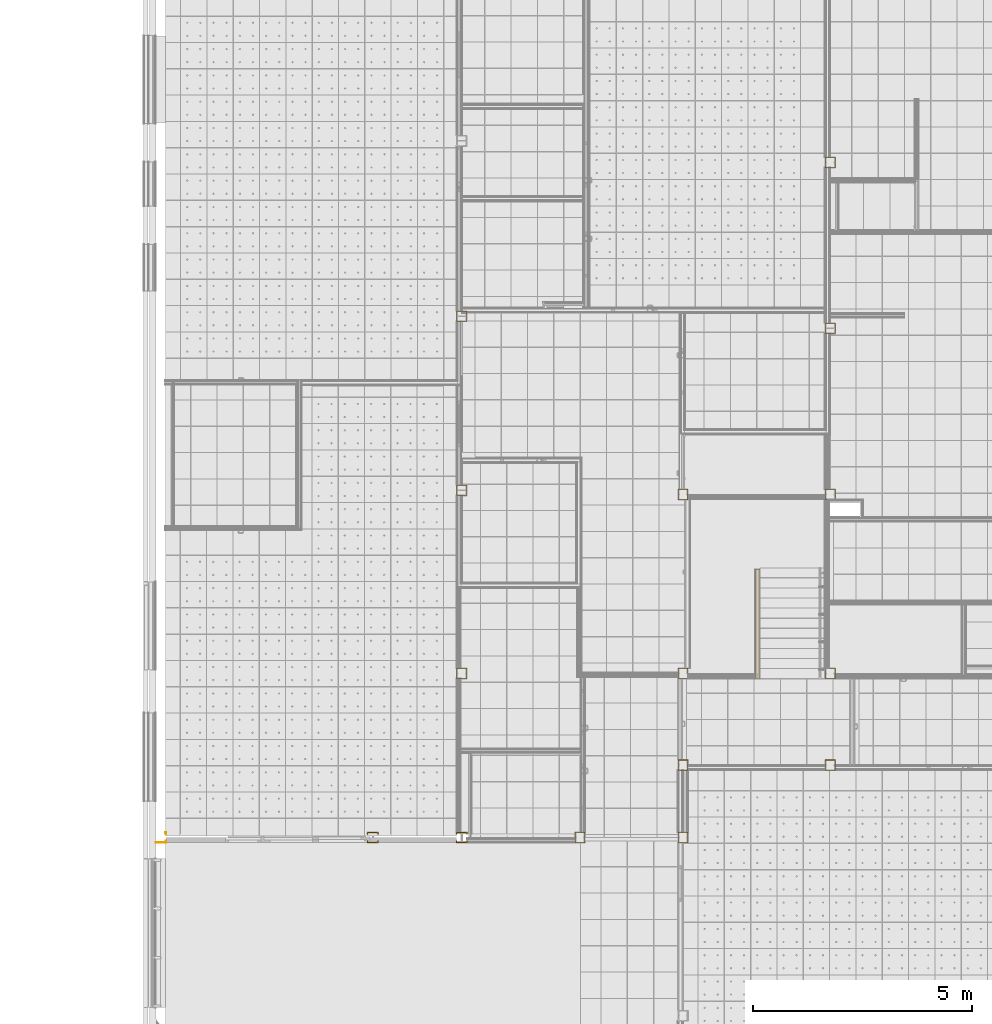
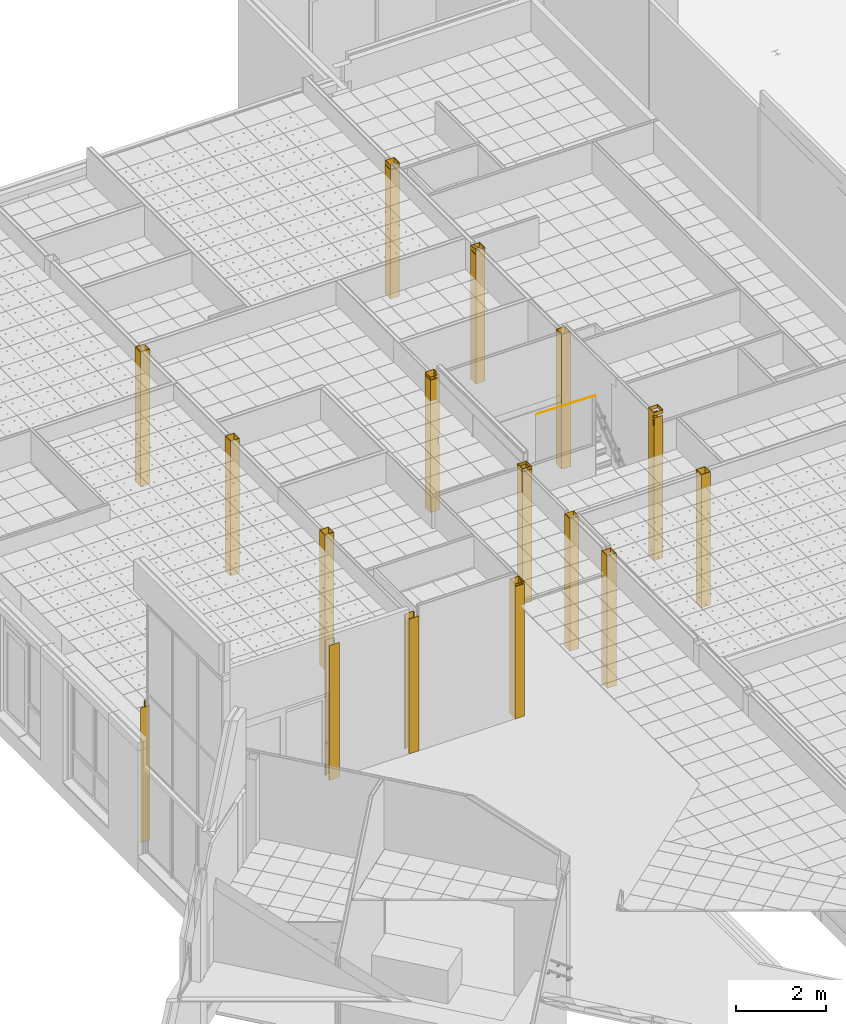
# One storey, part 118 of 338: 17 coverings.
"""IFC2X3 building model written with IfcOpenShell, lengths in millimetres."""

import ifcopenshell
import ifcopenshell.guid

model = None  # the IFC model being written
_history = None  # IfcOwnerHistory: only IFC2X3 demands one
_inside = {}  # id of a spatial element -> (the spatial element, [elements in it])
_under = {}  # id of a project, library or spatial element -> (it, [spatial elements below it])
_declared = {}  # id of a project -> (the project, [libraries it declares])
_typed = {}  # id of a type object -> (the type object, [elements of that type])
_made_of = {}  # id of a material, layer set ... -> (it, [elements and type objects made of it])


def new_model(schema):
    """Start an empty IFC model of exactly this schema.

    Asked for "IFC4X3", IfcOpenShell would pick the latest addendum, in which some entities
    have other attributes; the version numbers below select the first issue.
    IFC2X3 requires an IfcOwnerHistory on every rooted entity: one is made here for all.
    """
    global model, _history
    if schema == "IFC4X3":
        model = ifcopenshell.file(schema_version=(4, 3, 0, 0))
    else:
        model = ifcopenshell.file(schema=schema)
    _inside.clear()
    _under.clear()
    _declared.clear()
    _typed.clear()
    _made_of.clear()
    _history = None
    if model.schema == "IFC2X3":
        org = make("IfcOrganization", Name="unknown")
        user = make(
            "IfcPersonAndOrganization",
            ThePerson=make("IfcPerson", FamilyName="unknown"),
            TheOrganization=org,
        )
        app = make(
            "IfcApplication",
            ApplicationDeveloper=org,
            Version="unknown",
            ApplicationFullName="unknown",
            ApplicationIdentifier="unknown",
        )
        _history = make(
            "IfcOwnerHistory",
            OwningUser=user,
            OwningApplication=app,
            ChangeAction="ADDED",
            CreationDate=0,
        )
    return model


def make(cls, **values):
    """One entity of the class cls with the attributes given. An attribute that is None is left unset."""
    return model.create_entity(
        cls, **{name: value for name, value in values.items() if value is not None}
    )


def entity(cls, *values):
    """Any entity or typed value of the class cls, its attributes in the order of the schema. None: left unset."""
    e = model.create_entity(cls)
    for i, value in enumerate(values):
        if value is not None:
            e[i] = value
    return e


def rooted(cls, **values):
    """An entity with a GlobalId (a new one), such as an element, a storey or a relation."""
    return make(cls, GlobalId=ifcopenshell.guid.new(), OwnerHistory=_history, **values)


def si_unit(unit_type, name, prefix=None):
    """IfcSIUnit, for example si_unit("LENGTHUNIT", "METRE", prefix="MILLI")."""
    return make("IfcSIUnit", UnitType=unit_type, Prefix=prefix, Name=name)


def converted_unit(unit_type, name, factor, base, dimensions=None, offset=None):
    """IfcConversionBasedUnit, such as the inch: factor (a typed value) times the base unit."""
    return make(
        "IfcConversionBasedUnit"
        if offset is None
        else "IfcConversionBasedUnitWithOffset",
        ConversionOffset=offset,
        Dimensions=None
        if dimensions is None
        else entity("IfcDimensionalExponents", *dimensions),
        UnitType=unit_type,
        Name=name,
        ConversionFactor=make(
            "IfcMeasureWithUnit", ValueComponent=factor, UnitComponent=base
        ),
    )


def derived_unit(unit_type, elements):
    """IfcDerivedUnit: a product of units, each with its exponent."""
    return make(
        "IfcDerivedUnit",
        Elements=[
            make("IfcDerivedUnitElement", Unit=unit, Exponent=power)
            for unit, power in elements
        ],
        UnitType=unit_type,
    )


def money_unit(currency):
    """IfcMonetaryUnit."""
    return make("IfcMonetaryUnit", Currency=currency)


def assignment(units):
    """IfcUnitAssignment: the units of a project."""
    return None if units is None else make("IfcUnitAssignment", Units=units)


def point(xyz):
    """IfcCartesianPoint."""
    return None if xyz is None else make("IfcCartesianPoint", Coordinates=xyz)


def direction(xyz):
    """IfcDirection."""
    return None if xyz is None else make("IfcDirection", DirectionRatios=xyz)


def frame(location, z_axis=None, x_axis=None):
    """IfcAxis2Placement3D, a coordinate frame: its origin and axes. An axis left out is left unset."""
    return make(
        "IfcAxis2Placement3D",
        Location=point(location),
        Axis=direction(z_axis),
        RefDirection=direction(x_axis),
    )


def origin_with_axes():
    """The frame at (0, 0, 0) with the z axis (0, 0, 1) and the x axis (1, 0, 0) written out."""
    return frame((0.0, 0.0, 0.0), z_axis=(0.0, 0.0, 1.0), x_axis=(1.0, 0.0, 0.0))


def place(relative_to, where):
    """IfcLocalPlacement: puts the frame where relative to a parent placement (None: the world)."""
    return make(
        "IfcLocalPlacement", PlacementRelTo=relative_to, RelativePlacement=where
    )


def context(
    kind, dimensions, precision=None, world=None, true_north=None, identifier=None
):
    """IfcGeometricRepresentationContext, for example the 3D "Model" context."""
    return make(
        "IfcGeometricRepresentationContext",
        ContextIdentifier=identifier,
        ContextType=kind,
        CoordinateSpaceDimension=dimensions,
        Precision=precision,
        WorldCoordinateSystem=world,
        TrueNorth=true_north,
    )


def subcontext(parent, identifier, kind, view, scale=None):
    """IfcGeometricRepresentationSubContext, for example "Body" below "Model"."""
    return make(
        "IfcGeometricRepresentationSubContext",
        ContextIdentifier=identifier,
        ContextType=kind,
        ParentContext=parent,
        TargetScale=scale,
        TargetView=view,
    )


def project(units=None, contexts=None):
    """IfcProject with its units and contexts."""
    return rooted(
        "IfcProject",
        Name="project",
        RepresentationContexts=contexts,
        UnitsInContext=assignment(units),
    )


def spatial(cls, under=None, at=None, **own):
    """A site, building, storey or space (cls), placed at a placement, below another one or the project."""
    s = rooted(cls, ObjectPlacement=at, **own)
    if under is not None:
        _under.setdefault(under.id(), (under, []))[1].append(s)
    return s


def faces_of(points, faces, orient=None, outer=None):
    """IfcFace entities. A face is a list of loops; a loop is a list of indices into points, from 0.

    orient and outer hold one flag for each loop. By default every Orientation is true, the
    first loop of a face is its IfcFaceOuterBound and the others are IfcFaceBound.
    """
    made = []
    for i, loops in enumerate(faces):
        bounds = []
        for j, loop in enumerate(loops):
            is_outer = j == 0 if outer is None else outer[i][j]
            bounds.append(
                make(
                    "IfcFaceOuterBound" if is_outer else "IfcFaceBound",
                    Bound=make("IfcPolyLoop", Polygon=[points[k] for k in loop]),
                    Orientation=True if orient is None else orient[i][j],
                )
            )
        made.append(make("IfcFace", Bounds=bounds))
    return made


def faceted_brep(points, faces, orient=None, outer=None, voids=None):
    """IfcFacetedBrep: a solid bounded by flat faces; with voids (closed shells), ...WithVoids."""
    shared = [point(p) for p in points]
    hull = make("IfcClosedShell", CfsFaces=faces_of(shared, faces, orient, outer))
    if voids is None:
        return make("IfcFacetedBrep", Outer=hull)
    return make(
        "IfcFacetedBrepWithVoids",
        Outer=hull,
        Voids=[
            make(cls, CfsFaces=faces_of(shared, fs, o, b)) for cls, fs, o, b in voids
        ],
    )


def shape(context_of_items, identifier, shape_type, items):
    """IfcShapeRepresentation: the items that make up one representation, for example the "Body"."""
    return make(
        "IfcShapeRepresentation",
        ContextOfItems=context_of_items,
        RepresentationIdentifier=identifier,
        RepresentationType=shape_type,
        Items=items,
    )


def material(Name=None, Category=None):
    """IfcMaterial."""
    return make("IfcMaterial", Name=Name, Category=Category)


def made_of(thing, what):
    """Note that an element or type object is made of a material, layer set ...; save() writes the relation."""
    if what is not None:
        _made_of.setdefault(what.id(), (what, []))[1].append(thing)
    return thing


def type_object(cls, material=None, **own):
    """A type object (cls), such as IfcWallType, which elements share."""
    return made_of(rooted(cls, **own), material)


def element(
    cls,
    number,
    at=None,
    inside=None,
    cuts=None,
    type_object=None,
    material=None,
    context=None,
    identifier="Body",
    shape_type=None,
    held_by="IfcProductDefinitionShape",
    body=None,
    shapes=None,
    **own,
):
    """One element of the class cls, such as IfcWall. Its Tag is "e" and its number.

    at: its placement. inside: the storey or other place that contains it. cuts: it is an
    opening in that element (IfcRelVoidsElement). A single representation is given by context,
    identifier, shape_type and body (its items); several are given by shapes. held_by: the class
    of the entity that holds the representations. save() writes the other relations.
    """
    e = rooted(cls, Tag="e%d" % number, ObjectPlacement=at, **own)
    if body is not None:
        shapes = [shape(context, identifier, shape_type, body)]
    if shapes is not None:
        e.Representation = make(held_by, Representations=shapes)
    if inside is not None:
        _inside.setdefault(inside.id(), (inside, []))[1].append(e)
    if cuts is not None:
        rooted(
            "IfcRelVoidsElement", RelatingBuildingElement=cuts, RelatedOpeningElement=e
        )
    if type_object is not None:
        _typed.setdefault(type_object.id(), (type_object, []))[1].append(e)
    return made_of(e, material)


def aggregate(whole, parts):
    """IfcRelAggregates: a whole, such as a stair, and the parts it consists of."""
    return rooted("IfcRelAggregates", RelatingObject=whole, RelatedObjects=parts)


def save(model, path):
    """Write the relations noted so far, then the file.

    IfcRelAggregates (storeys below a building ...), IfcRelContainedInSpatialStructure (elements
    in a storey), IfcRelDefinesByType, IfcRelAssociatesMaterial and IfcRelDeclares: one each for
    every whole, place, type object, material and project.
    """
    for whole, parts in _under.values():
        aggregate(whole, parts)
    for where, things in _inside.values():
        rooted(
            "IfcRelContainedInSpatialStructure",
            RelatedElements=things,
            RelatingStructure=where,
        )
    for kind, things in _typed.values():
        rooted("IfcRelDefinesByType", RelatedObjects=things, RelatingType=kind)
    for what, things in _made_of.values():
        rooted("IfcRelAssociatesMaterial", RelatedObjects=things, RelatingMaterial=what)
    for by, libraries in _declared.values():
        rooted("IfcRelDeclares", RelatingContext=by, RelatedDefinitions=libraries)
    model.write(path)


model = new_model("IFC2X3")

# Units and contexts
model_context = context("Model", 3, precision=0.01, world=origin_with_axes(), true_north=direction((0.0, 1.0)))
plan_context = context("Plan", 3, precision=0.01, world=origin_with_axes(), true_north=direction((0.0, 1.0)))
body_context = subcontext(model_context, "Body", "Model", "MODEL_VIEW")
ifc_project = project(units=[si_unit("LENGTHUNIT", "METRE", prefix="MILLI"), si_unit("AREAUNIT", "SQUARE_METRE"), si_unit("VOLUMEUNIT", "CUBIC_METRE"), converted_unit("PLANEANGLEUNIT", "DEGREE", entity("IfcPlaneAngleMeasure", 0.0174532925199), si_unit("PLANEANGLEUNIT", "RADIAN"), dimensions=[0, 0, 0, 0, 0, 0, 0]), money_unit("EUR"), converted_unit("TIMEUNIT", "Year", entity("IfcTimeMeasure", 31556926.0), si_unit("TIMEUNIT", "SECOND"), dimensions=[0, 0, 1, 0, 0, 0, 0]), si_unit("MASSUNIT", "GRAM", prefix="KILO"), si_unit("THERMODYNAMICTEMPERATUREUNIT", "DEGREE_CELSIUS"), si_unit("LUMINOUSINTENSITYUNIT", "LUMEN"), si_unit("ENERGYUNIT", "JOULE", prefix="MEGA"), derived_unit("THERMALCONDUCTANCEUNIT", [(si_unit("POWERUNIT", "WATT"), 1), (si_unit("LENGTHUNIT", "METRE"), -1), (si_unit("THERMODYNAMICTEMPERATUREUNIT", "KELVIN"), -1)]), derived_unit("SPECIFICHEATCAPACITYUNIT", [(si_unit("ENERGYUNIT", "JOULE"), 1), (si_unit("MASSUNIT", "GRAM", prefix="KILO"), -1), (si_unit("THERMODYNAMICTEMPERATUREUNIT", "KELVIN"), -1)]), derived_unit("MASSDENSITYUNIT", [(si_unit("MASSUNIT", "GRAM", prefix="KILO"), 1), (si_unit("VOLUMEUNIT", "CUBIC_METRE"), -1)])], contexts=[model_context, plan_context])

# Site, building, storey
site_placement = place(None, origin_with_axes())
site = spatial("IfcSite", under=ifc_project, at=site_placement, Name="Fortuinstraat Woensdrecht", CompositionType="ELEMENT")
building_placement = place(site_placement, origin_with_axes())
building = spatial("IfcBuilding", under=site, at=building_placement, Name="IKC Fortuna", CompositionType="ELEMENT")
storey_placement = place(building_placement, origin_with_axes())
storey = spatial("IfcBuildingStorey", under=building, at=storey_placement, Name="00 begane grond", CompositionType="ELEMENT", Elevation=0.0)

# Coverings
ifc_material_1 = material(Name="Brandwering")
covering_type_1 = type_object("IfcCoveringType", Name="42 Omtimmering kolom 235 x 245", PredefinedType="CLADDING")
for number, where, z_axis, x_axis, name in (
    (1, (20569.4349765, 24097.2966283, 0.0), (0.0, 0.0, 1.0), (1.0, 0.0, 0.0), "42_Wandafwerking_omtimmering kolom"),
    (2, (20569.4349765, 28067.2966283, 0.0), (0.0, 0.0, 1.0), (1.0, 0.0, 0.0), "42_Wandafwerking_omtimmering kolom"),
    (3, (20569.4349765, 19922.2966283, 0.0), (0.0, 0.0, 1.0), (1.0, 0.0, 0.0), "42_Wandafwerking_omtimmering kolom"),
):
    element("IfcCovering", number, at=place(storey_placement, frame(where, z_axis=z_axis, x_axis=x_axis)), inside=storey, type_object=covering_type_1, material=ifc_material_1, Name=name, PredefinedType="CLADDING", context=body_context, shape_type="Brep", body=[
        faceted_brep([(-117.5, 122.5, 3635.0), (-117.5, 122.5, 0.0), (-117.5, -122.5, 0.0), (-117.5, -122.5, 3635.0), (117.5, 122.5, 3635.0), (117.5, 122.5, 0.0), (117.5, -122.5, 0.0), (105.0, -110.0, 0.0), (105.0, 110.0, 0.0), (-105.0, 110.0, 0.0), (-105.0, -110.0, 0.0), (117.5, -122.5, 3635.0), (-105.0, 110.0, 3635.0), (105.0, 110.0, 3635.0), (105.0, -110.0, 3635.0), (-105.0, -110.0, 3635.0)], [[[0, 1, 2, 3]], [[4, 5, 1, 0]], [[2, 1, 5, 6], [7, 8, 9, 10]], [[3, 2, 6, 11]], [[4, 0, 3, 11], [12, 13, 14, 15]], [[11, 6, 5, 4]], [[13, 8, 7, 14]], [[12, 9, 8, 13]], [[15, 10, 9, 12]], [[14, 7, 10, 15]]]),
    ])
covering_1_placement = place(storey_placement, frame((20569.4349765, 16182.2966282, 0.0), z_axis=(0.0, 0.0, 1.0), x_axis=(0.0, -1.0, 0.0)))
element("IfcCovering", 4, at=covering_1_placement, inside=storey, type_object=covering_type_1, material=ifc_material_1, Name="42_Wandafwerking_omtimmering kolom", PredefinedType="CLADDING", context=body_context, shape_type="Brep", body=[
    faceted_brep([(105.0, -110.0, 0.0), (75.0, -110.0, 0.0), (75.0, -110.0, 3635.0), (105.0, -110.0, 3635.0), (117.5, -122.5, 0.0), (75.0, -122.5, 0.0), (105.0, 110.0, 0.0), (75.0000000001, 110.0, 0.0), (75.0000000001, 122.5, 0.0), (117.5, 122.5, 0.0), (75.0, -122.5, 3635.0), (117.5, -122.5, 3635.0), (117.5, 122.5, 3635.0), (75.0000000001, 122.5, 3635.0), (75.0000000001, 110.0, 3635.0), (105.0, 110.0, 3635.0)], [[[0, 1, 2, 3]], [[4, 5, 1, 0, 6, 7, 8, 9]], [[5, 10, 2, 1]], [[3, 2, 10, 11, 12, 13, 14, 15]], [[3, 15, 6, 0]], [[11, 10, 5, 4]], [[15, 14, 7, 6]], [[7, 14, 13, 8]], [[9, 8, 13, 12]], [[12, 11, 4, 9]]]),
    faceted_brep([(-117.5, -122.5, 3635.0), (-75.0, -122.5, 3635.0), (-75.0, -110.0, 3635.0), (-105.0, -110.0, 3635.0), (-105.0, 110.0, 3635.0), (-74.9999999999, 110.0, 3635.0), (-74.9999999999, 122.5, 3635.0), (-117.5, 122.5, 3635.0), (-117.5, -122.5, 0.0), (-75.0, -122.5, 0.0), (-75.0, -110.0, 0.0), (-105.0, -110.0, 0.0), (-105.0, 110.0, 0.0), (-74.9999999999, 110.0, 0.0), (-74.9999999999, 122.5, 0.0), (-117.5, 122.5, 0.0)], [[[0, 1, 2, 3, 4, 5, 6, 7]], [[8, 9, 1, 0]], [[9, 10, 2, 1]], [[3, 2, 10, 11]], [[4, 3, 11, 12]], [[12, 13, 5, 4]], [[13, 14, 6, 5]], [[7, 6, 14, 15]], [[0, 7, 15, 8]], [[11, 10, 9, 8, 15, 14, 13, 12]]]),
])
covering_2_placement = place(storey_placement, frame((23265.4349765, 16182.2966283, 0.0), z_axis=(0.0, 0.0, 1.0), x_axis=(1.0, 0.0, 0.0)))
element("IfcCovering", 5, at=covering_2_placement, inside=storey, type_object=covering_type_1, material=ifc_material_1, Name="42_Wandafwerking_omtimmering kolom", PredefinedType="CLADDING", context=body_context, shape_type="Brep", body=[
    faceted_brep([(117.5, 110.0, 3589.0), (117.5, 110.0, 3570.0), (117.5, -122.5, 3570.0), (117.5, -122.5, 0.0), (117.5, 122.5, 0.0), (117.5, 122.5, 3635.0), (117.5, -122.5, 3635.0), (117.5, -122.5, 3589.0), (105.0, 110.0, 3570.0), (105.0, 110.0, 3589.0), (-105.0, -122.5, 3570.0), (105.0, -110.0, 3570.0), (-105.0, -110.0, 3570.0), (35.8826859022, -122.5, 3602.5), (39.5, -122.5, 3616.0), (39.5, -122.5, 3635.0), (-117.5, -122.5, 3635.0), (-117.5, -122.5, 0.0), (-105.0, -122.5, 3589.0), (12.5, -122.5, 3589.0), (26.0, -122.5, 3592.6173141), (-117.5, 122.5, 0.0), (-105.0, -110.0, 0.0), (105.0, -110.0, 0.0), (105.0, 110.0, 0.0), (-105.0, 110.0, 0.0), (-117.5, 122.5, 3635.0), (105.0, -110.0, 3635.0), (50.5, -110.0, 3635.0), (50.5, -122.5, 3635.0), (39.5, -110.0, 3635.0), (-105.0, -110.0, 3635.0), (-105.0, 110.0, 3635.0), (105.0, 110.0, 3635.0), (64.0, -122.5, 3592.6173141), (77.5, -122.5, 3589.0), (50.5, -122.5, 3616.0), (54.1173140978, -122.5, 3602.5), (77.5, -110.0, 3589.0), (105.0, -110.0, 3589.0), (-105.0, -110.0, 3589.0), (35.8826859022, -110.0, 3602.5), (39.5, -110.0, 3616.0), (12.5, -110.0, 3589.0), (26.0, -110.0, 3592.6173141), (54.1173140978, -110.0, 3602.5), (50.5, -110.0, 3616.0), (64.0, -110.0, 3592.6173141)], [[[0, 1, 2, 3, 4, 5, 6, 7]], [[8, 1, 0, 9]], [[10, 2, 1, 8, 11, 12]], [[13, 14, 15, 16, 17, 3, 2, 10, 18, 19, 20]], [[3, 17, 21, 4], [22, 23, 24, 25]], [[26, 5, 4, 21]], [[27, 28, 29, 6, 5, 26, 16, 15, 30, 31, 32, 33]], [[34, 35, 7, 6, 29, 36, 37]], [[9, 0, 7, 35, 38, 39]], [[24, 8, 9, 33, 32, 25]], [[23, 11, 8, 24]], [[22, 12, 11, 23]], [[10, 12, 40, 18]], [[13, 41, 42, 14]], [[14, 42, 30, 15]], [[16, 26, 21, 17]], [[18, 40, 43, 19]], [[19, 43, 44, 20]], [[20, 44, 41, 13]], [[31, 40, 12, 22, 25, 32]], [[45, 46, 28, 27, 39, 38, 47]], [[36, 29, 28, 46]], [[44, 43, 40, 31, 30, 42, 41]], [[33, 9, 39, 27]], [[34, 47, 38, 35]], [[36, 46, 45, 37]], [[37, 45, 47, 34]]]),
])
covering_3_placement = place(storey_placement, frame((25615.4349765, 16182.2966283, 0.0), z_axis=(0.0, 0.0, 1.0), x_axis=(1.0, 0.0, 0.0)))
element("IfcCovering", 6, at=covering_3_placement, inside=storey, type_object=covering_type_1, material=ifc_material_1, Name="42_Wandafwerking_omtimmering kolom", PredefinedType="CLADDING", context=body_context, shape_type="Brep", body=[
    faceted_brep([(-117.5, 122.5, 3575.0), (-117.5, 122.5, 0.0), (-117.5, -122.5, 0.0), (-117.5, -122.5, 3575.0), (117.5, 122.5, 3575.0), (117.5, 122.5, 0.0), (117.5, -122.5, 0.0), (105.0, -110.0, 0.0), (105.0, 110.0, 0.0), (-105.0, 110.0, 0.0), (-105.0, -110.0, 0.0), (117.5, -122.5, 3575.0), (-105.0, 110.0, 3575.0), (105.0, 110.0, 3575.0), (105.0, -110.0, 3575.0), (-105.0, -110.0, 3575.0)], [[[0, 1, 2, 3]], [[4, 5, 1, 0]], [[2, 1, 5, 6], [7, 8, 9, 10]], [[3, 2, 6, 11]], [[4, 0, 3, 11], [12, 13, 14, 15]], [[11, 6, 5, 4]], [[13, 8, 7, 14]], [[12, 9, 8, 13]], [[15, 10, 9, 12]], [[14, 7, 10, 15]]]),
])
covering_4_placement = place(storey_placement, frame((25615.4349765, 17832.2966283, 0.0), z_axis=(0.0, 0.0, 1.0), x_axis=(1.0, 0.0, 0.0)))
element("IfcCovering", 7, at=covering_4_placement, inside=storey, type_object=covering_type_1, material=ifc_material_1, Name="42_Wandafwerking_omtimmering kolom", PredefinedType="CLADDING", context=body_context, shape_type="Brep", body=[
    faceted_brep([(-117.5, 122.5, 0.0), (-117.5, 122.5, 3570.0), (117.5, 122.5, 3570.0), (117.5, 122.5, 0.0), (-117.5, 111.27317153, 3575.0), (-117.5, 111.27317153, 3570.0), (-117.5, -122.5, 0.0), (-117.5, -122.5, 3575.0), (117.5, 111.27317153, 3570.0), (117.5, 111.27317153, 3575.0), (117.5, -122.5, 3575.0), (117.5, -122.5, 0.0), (-105.0, -110.0, 0.0), (105.0, -110.0, 0.0), (105.0, 110.0, 0.0), (-105.0, 110.0, 0.0), (-105.0, -110.0, 3575.0), (-105.0, 110.0, 3575.0), (105.0, 110.0, 3575.0), (105.0, -110.0, 3575.0)], [[[0, 1, 2, 3]], [[4, 5, 1, 0, 6, 7]], [[5, 8, 2, 1]], [[2, 8, 9, 10, 11, 3]], [[11, 6, 0, 3], [12, 13, 14, 15]], [[5, 4, 9, 8]], [[10, 7, 6, 11]], [[10, 9, 4, 7], [16, 17, 18, 19]], [[16, 19, 13, 12]], [[19, 18, 14, 13]], [[18, 17, 15, 14]], [[17, 16, 12, 15]]]),
])
covering_5_placement = place(storey_placement, frame((25615.4349765, 19922.2966283, 0.0), z_axis=(0.0, 0.0, 1.0), x_axis=(1.0, 0.0, 0.0)))
element("IfcCovering", 8, at=covering_5_placement, inside=storey, type_object=covering_type_1, material=ifc_material_1, Name="42_Wandafwerking_omtimmering kolom", PredefinedType="CLADDING", context=body_context, shape_type="Brep", body=[
    faceted_brep([(-117.5, -122.5, 3650.0), (-5.50000000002, -122.5, 3650.0), (-5.50000000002, -110.0, 3650.0), (-105.0, -110.0, 3650.0), (-105.0, 110.0, 3650.0), (-5.50000000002, 110.0, 3650.0), (-5.50000000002, 122.5, 3650.0), (-117.5, 122.5, 3650.0), (-9.11731409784, -122.5, 3602.5), (-5.50000000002, -122.5, 3616.0), (-117.5, -122.5, 3589.0), (-32.5, -122.5, 3589.0), (-19.0, -122.5, 3592.6173141), (-5.50000000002, -110.0, 3616.0), (-19.0, -110.0, 3592.6173141), (-32.5, -110.0, 3589.0), (-105.0, -110.0, 3589.0), (-9.11731409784, -110.0, 3602.5), (-105.0, 110.0, 3589.0), (-9.11731409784, 110.0, 3602.5), (-5.50000000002, 110.0, 3616.0), (-32.5, 110.0, 3589.0), (-19.0, 110.0, 3592.6173141), (-5.50000000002, 122.5, 3616.0), (-19.0, 122.5, 3592.6173141), (-32.5, 122.5, 3589.0), (-117.5, 122.5, 3589.0), (-9.11731409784, 122.5, 3602.5)], [[[0, 1, 2, 3, 4, 5, 6, 7]], [[8, 9, 1, 0, 10, 11, 12]], [[9, 13, 2, 1]], [[14, 15, 16, 3, 2, 13, 17]], [[3, 16, 18, 4]], [[19, 20, 5, 4, 18, 21, 22]], [[20, 23, 6, 5]], [[24, 25, 26, 7, 6, 23, 27]], [[7, 26, 10, 0]], [[8, 17, 13, 9]], [[10, 26, 25, 21, 18, 16, 15, 11]], [[11, 15, 14, 12]], [[12, 14, 17, 8]], [[19, 27, 23, 20]], [[21, 25, 24, 22]], [[22, 24, 27, 19]]]),
    faceted_brep([(105.0, -110.0, 0.0), (105.0, -110.0, 3570.0), (105.0, 110.0, 3570.0), (105.0, 110.0, 0.0), (-105.0, -110.0, 0.0), (-105.0, -110.0, 3570.0), (-117.5, -122.5, 3570.0), (117.5, -122.5, 3570.0), (117.5, 122.5, 3570.0), (-117.5, 122.5, 3570.0), (-105.0, 110.0, 3570.0), (-105.0, 110.0, 0.0), (117.5, 122.5, 0.0), (117.5, -122.5, 0.0), (-117.5, -122.5, 0.0), (-117.5, 122.5, 0.0)], [[[0, 1, 2, 3]], [[4, 5, 1, 0]], [[6, 7, 8, 9], [5, 10, 2, 1]], [[3, 2, 10, 11]], [[12, 13, 14, 15], [11, 4, 0, 3]], [[11, 10, 5, 4]], [[13, 7, 6, 14]], [[12, 8, 7, 13]], [[15, 9, 8, 12]], [[14, 6, 9, 15]]]),
    faceted_brep([(117.5, -122.5, 3650.0), (117.5, -122.5, 3589.0), (117.5, 122.5, 3589.0), (117.5, 122.5, 3650.0), (19.0, -122.5, 3592.6173141), (32.5, -122.5, 3589.0), (5.49999999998, -122.5, 3650.0), (5.49999999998, -122.5, 3616.0), (9.1173140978, -122.5, 3602.5), (32.5, 110.0, 3589.0), (32.5, 122.5, 3589.0), (32.5, -110.0, 3589.0), (105.0, -110.0, 3589.0), (105.0, 110.0, 3589.0), (9.1173140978, 122.5, 3602.5), (5.49999999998, 122.5, 3616.0), (5.49999999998, 122.5, 3650.0), (19.0, 122.5, 3592.6173141), (105.0, -110.0, 3650.0), (5.49999999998, -110.0, 3650.0), (5.49999999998, 110.0, 3650.0), (105.0, 110.0, 3650.0), (19.0, -110.0, 3592.6173141), (5.49999999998, -110.0, 3616.0), (9.1173140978, -110.0, 3602.5), (19.0, 110.0, 3592.6173141), (5.49999999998, 110.0, 3616.0), (9.1173140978, 110.0, 3602.5)], [[[0, 1, 2, 3]], [[4, 5, 1, 0, 6, 7, 8]], [[9, 10, 2, 1, 5, 11, 12, 13]], [[14, 15, 16, 3, 2, 10, 17]], [[18, 19, 6, 0, 3, 16, 20, 21]], [[4, 22, 11, 5]], [[7, 6, 19, 23]], [[7, 23, 24, 8]], [[8, 24, 22, 4]], [[25, 17, 10, 9]], [[24, 23, 19, 18, 12, 11, 22]], [[21, 13, 12, 18]], [[25, 9, 13, 21, 20, 26, 27]], [[26, 15, 14, 27]], [[26, 20, 16, 15]], [[27, 14, 17, 25]]]),
])
covering_6_placement = place(storey_placement, frame((25615.4349765, 24002.2966283, 0.0), z_axis=(0.0, 0.0, 1.0), x_axis=(1.0, 0.0, 0.0)))
element("IfcCovering", 9, at=covering_6_placement, inside=storey, type_object=covering_type_1, material=ifc_material_1, Name="42_Wandafwerking_omtimmering kolom", PredefinedType="CLADDING", context=body_context, shape_type="Brep", body=[
    faceted_brep([(117.5, 110.0, 3589.0), (117.5, 110.0, 3570.0), (117.5, -122.5, 3570.0), (117.5, -122.5, 2000.0), (117.5, -110.0, 2000.0), (117.5, -110.0, 1800.0), (117.5, -122.5, 1800.0), (117.5, -122.5, 0.0), (117.5, 122.5, 0.0), (117.5, 122.5, 3650.0), (117.5, -122.5, 3650.0), (117.5, -122.5, 3589.0), (105.0, 110.0, 3570.0), (105.0, 110.0, 3589.0), (-117.5, -122.5, 3570.0), (105.0, -110.0, 3570.0), (-105.0, -110.0, 3570.0), (-105.0, 110.0, 3570.0), (-117.5, 110.0, 3570.0), (-117.5, -122.5, 0.0), (79.0, -122.5, 1800.0), (79.0, -122.5, 1950.0), (83.0, -122.5, 1950.0), (87.2426406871, -122.5, 1948.24264069), (89.0, -122.5, 1944.0), (89.0, -122.5, 2000.0), (89.0, -110.0, 2000.0), (105.0, -110.0, 2000.0), (105.0, -110.0, 1800.0), (79.0, -110.0, 1800.0), (-117.5, 122.5, 0.0), (-105.0, 110.0, 0.0), (-105.0, -110.0, 0.0), (105.0, -110.0, 0.0), (105.0, 110.0, 0.0), (-117.5, 122.5, 3650.0), (105.0, -110.0, 3650.0), (5.49999999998, -110.0, 3650.0), (5.49999999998, -122.5, 3650.0), (-117.5, -122.5, 3650.0), (-5.50000000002, -122.5, 3650.0), (-5.50000000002, -110.0, 3650.0), (-105.0, -110.0, 3650.0), (-105.0, 110.0, 3650.0), (105.0, 110.0, 3650.0), (19.0, -122.5, 3592.6173141), (32.5, -122.5, 3589.0), (5.49999999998, -122.5, 3616.0), (9.1173140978, -122.5, 3602.5), (32.5, -110.0, 3589.0), (105.0, -110.0, 3589.0), (-105.0, 110.0, 3589.0), (89.0, -110.0, 1944.0), (87.2426406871, -110.0, 1948.24264069), (83.0, -110.0, 1950.0), (79.0, -110.0, 1950.0), (-117.5, 110.0, 3589.0), (-117.5, -122.5, 3589.0), (9.1173140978, -110.0, 3602.5), (5.49999999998, -110.0, 3616.0), (19.0, -110.0, 3592.6173141), (-9.11731409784, -122.5, 3602.5), (-5.50000000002, -122.5, 3616.0), (-32.5, -122.5, 3589.0), (-19.0, -122.5, 3592.6173141), (-5.50000000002, -110.0, 3616.0), (-19.0, -110.0, 3592.6173141), (-32.5, -110.0, 3589.0), (-105.0, -110.0, 3589.0), (-9.11731409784, -110.0, 3602.5)], [[[0, 1, 2, 3, 4, 5, 6, 7, 8, 9, 10, 11]], [[12, 1, 0, 13]], [[14, 2, 1, 12, 15, 16, 17, 18]], [[3, 2, 14, 19, 7, 6, 20, 21, 22, 23, 24, 25]], [[26, 27, 4, 3, 25]], [[27, 28, 5, 4]], [[20, 6, 5, 28, 29]], [[8, 7, 19, 30], [31, 32, 33, 34]], [[30, 35, 9, 8]], [[36, 37, 38, 10, 9, 35, 39, 40, 41, 42, 43, 44]], [[45, 46, 11, 10, 38, 47, 48]], [[13, 0, 11, 46, 49, 50]], [[34, 12, 13, 44, 43, 51, 17, 31]], [[27, 15, 12, 34, 33, 28]], [[32, 16, 15, 27, 26, 52, 53, 54, 55, 29, 28, 33]], [[31, 17, 16, 32]], [[18, 17, 51, 56]], [[18, 56, 57, 39, 35, 30, 19, 14]], [[20, 29, 55, 21]], [[21, 55, 54, 22]], [[22, 54, 53, 23]], [[23, 53, 52, 24]], [[25, 24, 52, 26]], [[58, 59, 37, 36, 50, 49, 60]], [[47, 38, 37, 59]], [[61, 62, 40, 39, 57, 63, 64]], [[62, 65, 41, 40]], [[66, 67, 68, 42, 41, 65, 69]], [[42, 68, 51, 43]], [[44, 13, 50, 36]], [[45, 60, 49, 46]], [[47, 59, 58, 48]], [[48, 58, 60, 45]], [[51, 68, 67, 63, 57, 56]], [[61, 69, 65, 62]], [[63, 67, 66, 64]], [[64, 66, 69, 61]]]),
])
covering_7_placement = place(storey_placement, frame((28969.4349765, 17832.2966283, 0.0), z_axis=(0.0, 0.0, 1.0), x_axis=(1.0, 0.0, 0.0)))
element("IfcCovering", 10, at=covering_7_placement, inside=storey, type_object=covering_type_1, material=ifc_material_1, Name="42_Wandafwerking_omtimmering kolom", PredefinedType="CLADDING", context=body_context, shape_type="Brep", body=[
    faceted_brep([(-117.5, 122.5, 3589.99995724), (-117.5, 122.5, 0.0), (-117.5, -122.5, 0.0), (-117.5, -122.5, 3589.99995724), (117.5, 122.5, 3589.99995724), (117.5, 122.5, 0.0), (117.5, -122.5, 0.0), (105.0, -110.0, 0.0), (105.0, 110.0, 0.0), (-105.0, 110.0, 0.0), (-105.0, -110.0, 0.0), (117.5, -122.5, 3589.99995724), (-105.0, 110.0, 3589.99995724), (105.0, 110.0, 3589.99995724), (105.0, -110.0, 3589.99995724), (-105.0, -110.0, 3589.99995724)], [[[0, 1, 2, 3]], [[4, 5, 1, 0]], [[2, 1, 5, 6], [7, 8, 9, 10]], [[3, 2, 6, 11]], [[4, 0, 3, 11], [12, 13, 14, 15]], [[11, 6, 5, 4]], [[13, 8, 7, 14]], [[12, 9, 8, 13]], [[15, 10, 9, 12]], [[14, 7, 10, 15]]]),
])
covering_8_placement = place(storey_placement, frame((28969.4349765, 19922.2966283, 0.0), z_axis=(0.0, 0.0, 1.0), x_axis=(1.0, 0.0, 0.0)))
element("IfcCovering", 11, at=covering_8_placement, inside=storey, type_object=covering_type_1, material=ifc_material_1, Name="42_Wandafwerking_omtimmering kolom", PredefinedType="CLADDING", context=body_context, shape_type="Brep", body=[
    faceted_brep([(-22.5000000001, 122.5, 3835.0), (-13.5000000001, 122.5, 3832.58845727), (-6.91154273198, 122.5, 3826.0), (-4.5000000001, 122.5, 3817.0), (-4.5000000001, 122.5, 3683.0), (-6.91154273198, 122.5, 3674.0), (-13.5000000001, 122.5, 3667.41154273), (-22.5000000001, 122.5, 3665.0), (-100.0, 122.5, 3665.0), (-100.0, 122.5, 3635.0), (117.5, 122.5, 3635.0), (117.5, 122.5, 0.0), (-117.5, 122.5, 0.0), (-117.5, 122.5, 4000.0), (117.5, 122.5, 4000.0), (117.5, 122.5, 3910.0), (-100.0, 122.5, 3910.0), (-100.0, 122.5, 3835.0), (-13.5000000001, 110.0, 3832.58845727), (-22.5000000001, 110.0, 3835.0), (-6.91154273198, 110.0, 3826.0), (-4.5000000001, 110.0, 3817.0), (-4.5000000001, 110.0, 3683.0), (-6.91154273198, 110.0, 3674.0), (-13.5000000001, 110.0, 3667.41154273), (-22.5000000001, 110.0, 3665.0), (-100.0, 110.0, 3665.0), (-100.0, 110.0, 3650.0), (-100.0, 110.0, 3635.0), (105.0, -82.9140546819, 3635.0), (117.5, -82.9140546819, 3635.0), (105.0, 110.0, 3635.0), (117.5, -82.9140546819, 3650.0), (117.5, -122.5, 3650.0), (117.5, -122.5, 0.0), (-117.5, -122.5, 0.0), (-105.0, 110.0, 0.0), (-105.0, -110.0, 0.0), (105.0, -110.0, 0.0), (105.0, 110.0, 0.0), (-117.5, -122.5, 3634.0), (-117.5, -83.0, 3634.0), (-117.5, -83.0, 3650.0), (-117.5, -82.5321995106, 3650.0), (-117.5, -82.5321995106, 3910.0), (-117.5, -122.5, 3910.0), (-117.5, -122.5, 4000.0), (117.5, -122.5, 4000.0), (105.0, -110.0, 4000.0), (-105.0, -110.0, 4000.0), (-105.0, 110.0, 4000.0), (105.0, 110.0, 4000.0), (117.5, -122.5, 3910.0), (-110.0, -82.5321995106, 3910.0), (-110.0, -83.0, 3910.0), (-105.0, -83.0, 3910.0), (-105.0, -110.0, 3910.0), (105.0, -110.0, 3910.0), (105.0, 110.0, 3910.0), (-100.0, 110.0, 3910.0), (-100.0, 110.0, 3850.0), (-100.0, 110.0, 3835.0), (105.0, -82.9140546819, 3650.0), (105.0, -110.0, 3650.0), (100.0, -110.0, 3650.0), (100.0, -122.5, 3650.0), (100.0, -122.5, 3850.0), (-100.0, -122.5, 3850.0), (-100.0, -122.5, 3634.0), (-105.0, -83.0, 3634.0), (-105.0, -110.0, 3634.0), (-100.0, -110.0, 3850.0), (100.0, -110.0, 3850.0), (-100.0, -110.0, 3634.0), (-110.0, -83.0, 3650.0), (-110.0, -82.5321995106, 3650.0)], [[[0, 1, 2, 3, 4, 5, 6, 7, 8, 9, 10, 11, 12, 13, 14, 15, 16, 17]], [[18, 1, 0, 19]], [[20, 2, 1, 18]], [[21, 3, 2, 20]], [[22, 4, 3, 21]], [[23, 5, 4, 22]], [[24, 6, 5, 23]], [[25, 7, 6, 24]], [[26, 8, 7, 25]], [[9, 8, 26, 27, 28]], [[29, 30, 10, 9, 28, 31]], [[10, 30, 32, 33, 34, 11]], [[11, 34, 35, 12], [36, 37, 38, 39]], [[40, 41, 42, 43, 44, 45, 46, 13, 12, 35]], [[46, 47, 14, 13], [48, 49, 50, 51]], [[14, 47, 52, 15]], [[15, 52, 45, 44, 53, 54, 55, 56, 57, 58, 59, 16]], [[59, 60, 61, 17, 16]], [[19, 0, 17, 61]], [[19, 61, 60, 59, 58, 51, 50, 36, 39, 31, 28, 27, 26, 25, 24, 23, 22, 21, 20, 18]], [[29, 62, 32, 30]], [[62, 29, 31, 39, 38, 63]], [[33, 32, 62, 63, 64, 65]], [[66, 67, 68, 40, 35, 34, 33, 65]], [[69, 70, 37, 36, 50, 49, 56, 55]], [[71, 72, 64, 63, 38, 37, 70, 73]], [[68, 73, 70, 69, 41, 40]], [[55, 54, 74, 42, 41, 69]], [[43, 42, 74, 75]], [[75, 53, 44, 43]], [[47, 46, 45, 52]], [[49, 48, 57, 56]], [[48, 51, 58, 57]], [[74, 54, 53, 75]], [[65, 64, 72, 66]], [[72, 71, 67, 66]], [[68, 67, 71, 73]]]),
    faceted_brep([(6.91154273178, 122.5, 3826.0), (13.4999999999, 122.5, 3832.58845727), (22.4999999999, 122.5, 3835.0), (99.9999999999, 122.5, 3835.0), (99.9999999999, 122.5, 3665.0), (22.4999999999, 122.5, 3665.0), (13.4999999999, 122.5, 3667.41154273), (6.91154273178, 122.5, 3674.0), (4.4999999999, 122.5, 3683.0), (4.4999999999, 122.5, 3817.0), (13.4999999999, 110.0, 3832.58845727), (6.91154273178, 110.0, 3826.0), (22.4999999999, 110.0, 3835.0), (99.9999999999, 110.0, 3835.0), (99.9999999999, 110.0, 3665.0), (22.4999999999, 110.0, 3665.0), (13.4999999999, 110.0, 3667.41154273), (6.91154273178, 110.0, 3674.0), (4.4999999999, 110.0, 3683.0), (4.4999999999, 110.0, 3817.0)], [[[0, 1, 2, 3, 4, 5, 6, 7, 8, 9]], [[10, 1, 0, 11]], [[12, 2, 1, 10]], [[12, 13, 3, 2]], [[13, 14, 4, 3]], [[15, 5, 4, 14]], [[16, 6, 5, 15]], [[17, 7, 6, 16]], [[18, 8, 7, 17]], [[19, 9, 8, 18]], [[11, 0, 9, 19]], [[16, 15, 14, 13, 12, 10, 11, 19, 18, 17]]]),
])
covering_9_placement = place(storey_placement, frame((28969.4349765, 24002.2966283, 0.0), z_axis=(0.0, 0.0, 1.0), x_axis=(1.0, 0.0, 0.0)))
element("IfcCovering", 12, at=covering_9_placement, inside=storey, type_object=covering_type_1, material=ifc_material_1, Name="42_Wandafwerking_omtimmering kolom", PredefinedType="CLADDING", context=body_context, shape_type="Brep", body=[
    faceted_brep([(105.0, -110.0, 3635.0), (-105.0, -110.0, 3635.0), (-117.5, -110.0, 3635.0), (-117.5, -122.5, 3635.0), (117.5, -122.5, 3635.0), (117.5, 122.5, 3635.0), (-117.5, 122.5, 3635.0), (-117.5, 110.0, 3635.0), (-105.0, 110.0, 3635.0), (105.0, 110.0, 3635.0), (-105.0, -110.0, 0.0), (-105.0, -110.0, 3634.0), (105.0, -110.0, 0.0), (-117.5, -110.0, 3634.0), (-117.5, 110.0, 3634.0), (-117.5, 122.5, 0.0), (-117.5, -122.5, 0.0), (-117.5, -122.5, 1800.0), (-117.5, -110.0, 1800.0), (-117.5, -110.0, 2000.0), (-117.5, -122.5, 2000.0), (-115.0, -122.5, 1944.0), (-113.242640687, -122.5, 1948.24264069), (-109.0, -122.5, 1950.0), (-105.0, -122.5, 1950.0), (-105.0, -122.5, 1800.0), (117.5, -122.5, 0.0), (-115.0, -122.5, 2000.0), (117.5, 122.5, 0.0), (-105.0, 110.0, 3634.0), (-105.0, 110.0, 0.0), (105.0, 110.0, 0.0), (-105.0, -110.0, 1800.0), (-113.242640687, -110.0, 1948.24264069), (-115.0, -110.0, 1944.0), (-115.0, -110.0, 2000.0), (-105.0, -110.0, 1950.0), (-109.0, -110.0, 1950.0)], [[[0, 1, 2, 3, 4, 5, 6, 7, 8, 9]], [[10, 11, 1, 0, 12]], [[13, 2, 1, 11]], [[13, 14, 7, 6, 15, 16, 17, 18, 19, 20, 3, 2]], [[21, 22, 23, 24, 25, 17, 16, 26, 4, 3, 20, 27]], [[28, 5, 4, 26]], [[15, 6, 5, 28]], [[14, 29, 8, 7]], [[9, 8, 29, 30, 31]], [[12, 0, 9, 31]], [[30, 29, 11, 10]], [[28, 26, 16, 15], [30, 10, 12, 31]], [[13, 11, 29, 14]], [[18, 17, 25, 32]], [[33, 34, 35, 19, 18, 32, 36, 37]], [[19, 35, 27, 20]], [[33, 22, 21, 34]], [[37, 23, 22, 33]], [[36, 24, 23, 37]], [[32, 25, 24, 36]], [[35, 34, 21, 27]]]),
])
covering_10_placement = place(storey_placement, frame((28969.4349765, 27792.2966283, 0.0), z_axis=(0.0, 0.0, 1.0), x_axis=(1.0, 0.0, 0.0)))
element("IfcCovering", 13, at=covering_10_placement, inside=storey, type_object=covering_type_1, material=ifc_material_1, Name="42_Wandafwerking_omtimmering kolom", PredefinedType="CLADDING", context=body_context, shape_type="Brep", body=[
    faceted_brep([(117.5, 122.5, 3475.0), (117.5, -110.0, 3475.0), (117.5, -110.0, 3499.0), (117.5, 122.5, 3499.0), (117.5, 122.5, 3600.0), (117.5, -122.5, 3600.0), (117.5, -122.5, 0.0), (117.5, 122.5, 0.0), (105.0, -110.0, 3475.0), (-117.5, 122.5, 3475.0), (-117.5, -110.0, 3475.0), (-105.0, -110.0, 3475.0), (-105.0, 110.0, 3475.0), (105.0, 110.0, 3475.0), (105.0, -110.0, 3499.0), (33.75, 110.0, 3499.0), (33.75, 122.5, 3499.0), (105.0, 110.0, 3499.0), (10.3673140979, 122.5, 3512.5), (6.75000000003, 122.5, 3526.0), (6.75000000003, 122.5, 3600.0), (20.25, 122.5, 3502.6173141), (-105.0, 110.0, 3600.0), (-6.75000000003, 110.0, 3600.0), (-6.75000000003, 122.5, 3600.0), (-117.5, 122.5, 3600.0), (-117.5, -122.5, 3600.0), (6.75000000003, 110.0, 3600.0), (105.0, 110.0, 3600.0), (105.0, -110.0, 3600.0), (-105.0, -110.0, 3600.0), (-117.5, -122.5, 0.0), (-117.5, 122.5, 0.0), (-105.0, -110.0, 0.0), (105.0, -110.0, 0.0), (105.0, 110.0, 0.0), (-105.0, 110.0, 0.0), (-117.5, -110.0, 3499.0), (-117.5, 122.5, 3499.0), (-105.0, -110.0, 3499.0), (20.25, 110.0, 3502.6173141), (6.75000000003, 110.0, 3526.0), (10.3673140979, 110.0, 3512.5), (-10.3673140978, 110.0, 3512.5), (-6.75000000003, 110.0, 3526.0), (-105.0, 110.0, 3499.0), (-33.75, 110.0, 3499.0), (-20.25, 110.0, 3502.6173141), (-6.75000000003, 122.5, 3526.0), (-20.25, 122.5, 3502.6173141), (-33.75, 122.5, 3499.0), (-10.3673140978, 122.5, 3512.5)], [[[0, 1, 2, 3, 4, 5, 6, 7]], [[8, 1, 0, 9, 10, 11, 12, 13]], [[14, 2, 1, 8]], [[15, 16, 3, 2, 14, 17]], [[18, 19, 20, 4, 3, 16, 21]], [[22, 23, 24, 25, 26, 5, 4, 20, 27, 28, 29, 30]], [[5, 26, 31, 6]], [[6, 31, 32, 7], [33, 34, 35, 36]], [[32, 9, 0, 7]], [[37, 10, 9, 32, 31, 26, 25, 38]], [[37, 39, 11, 10]], [[36, 12, 11, 33]], [[35, 13, 12, 36]], [[34, 8, 13, 35]], [[33, 11, 39, 30, 29, 14, 8, 34]], [[40, 21, 16, 15]], [[28, 17, 14, 29]], [[40, 15, 17, 28, 27, 41, 42]], [[41, 19, 18, 42]], [[41, 27, 20, 19]], [[42, 18, 21, 40]], [[43, 44, 23, 22, 45, 46, 47]], [[44, 48, 24, 23]], [[49, 50, 38, 25, 24, 48, 51]], [[30, 39, 45, 22]], [[37, 38, 50, 46, 45, 39]], [[43, 51, 48, 44]], [[46, 50, 49, 47]], [[47, 49, 51, 43]]]),
])
covering_11_placement = place(storey_placement, frame((28969.4349765, 31572.2966283, 0.0), z_axis=(0.0, 0.0, 1.0), x_axis=(1.0, 0.0, 0.0)))
element("IfcCovering", 14, at=covering_11_placement, inside=storey, type_object=covering_type_1, material=ifc_material_1, Name="42_Wandafwerking_omtimmering kolom", PredefinedType="CLADDING", context=body_context, shape_type="Brep", body=[
    faceted_brep([(117.5, 110.0, 3499.0), (117.5, 110.0, 3475.0), (117.5, -122.5, 3475.0), (117.5, -122.5, 0.0), (117.5, 122.5, 0.0), (117.5, 122.5, 3600.0), (117.5, -122.5, 3600.0), (117.5, -122.5, 3499.0), (105.0, 110.0, 3475.0), (105.0, 110.0, 3499.0), (-117.5, -122.5, 3475.0), (105.0, -110.0, 3475.0), (-105.0, -110.0, 3475.0), (-105.0, 110.0, 3475.0), (-117.5, 110.0, 3475.0), (-117.5, -122.5, 0.0), (-117.5, 122.5, 0.0), (-105.0, -110.0, 0.0), (105.0, -110.0, 0.0), (105.0, 110.0, 0.0), (-105.0, 110.0, 0.0), (-117.5, 122.5, 3600.0), (105.0, -110.0, 3600.0), (6.75000000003, -110.0, 3600.0), (6.75000000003, -122.5, 3600.0), (-117.5, -122.5, 3600.0), (-6.75000000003, -122.5, 3600.0), (-6.75000000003, -110.0, 3600.0), (-105.0, -110.0, 3600.0), (-105.0, 110.0, 3600.0), (105.0, 110.0, 3600.0), (20.25, -122.5, 3502.6173141), (33.75, -122.5, 3499.0), (6.75000000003, -122.5, 3526.0), (10.3673140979, -122.5, 3512.5), (33.75, -110.0, 3499.0), (105.0, -110.0, 3499.0), (-105.0, 110.0, 3499.0), (-117.5, 110.0, 3499.0), (-117.5, -122.5, 3499.0), (10.3673140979, -110.0, 3512.5), (6.75000000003, -110.0, 3526.0), (20.25, -110.0, 3502.6173141), (-10.3673140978, -122.5, 3512.5), (-6.75000000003, -122.5, 3526.0), (-33.75, -122.5, 3499.0), (-20.25, -122.5, 3502.6173141), (-6.75000000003, -110.0, 3526.0), (-20.25, -110.0, 3502.6173141), (-33.75, -110.0, 3499.0), (-105.0, -110.0, 3499.0), (-10.3673140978, -110.0, 3512.5)], [[[0, 1, 2, 3, 4, 5, 6, 7]], [[8, 1, 0, 9]], [[10, 2, 1, 8, 11, 12, 13, 14]], [[3, 2, 10, 15]], [[3, 15, 16, 4], [17, 18, 19, 20]], [[21, 5, 4, 16]], [[22, 23, 24, 6, 5, 21, 25, 26, 27, 28, 29, 30]], [[31, 32, 7, 6, 24, 33, 34]], [[9, 0, 7, 32, 35, 36]], [[19, 8, 9, 30, 29, 37, 13, 20]], [[18, 11, 8, 19]], [[17, 12, 11, 18]], [[20, 13, 12, 17]], [[14, 13, 37, 38]], [[14, 38, 39, 25, 21, 16, 15, 10]], [[40, 41, 23, 22, 36, 35, 42]], [[33, 24, 23, 41]], [[43, 44, 26, 25, 39, 45, 46]], [[44, 47, 27, 26]], [[48, 49, 50, 28, 27, 47, 51]], [[28, 50, 37, 29]], [[30, 9, 36, 22]], [[31, 42, 35, 32]], [[33, 41, 40, 34]], [[34, 40, 42, 31]], [[37, 50, 49, 45, 39, 38]], [[43, 51, 47, 44]], [[45, 49, 48, 46]], [[46, 48, 51, 43]]]),
])
covering_12_placement = place(storey_placement, frame((13705.4349765, 16182.2966282, 0.0), z_axis=(0.0, 0.0, 1.0), x_axis=(0.0, -1.0, 0.0)))
element("IfcCovering", 15, at=covering_12_placement, inside=storey, type_object=covering_type_1, material=ifc_material_1, Name="42_Wandafwerking_omtimmering kolom", PredefinedType="CLADDING", context=body_context, shape_type="Brep", body=[
    faceted_brep([(105.0, -109.999999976, 0.0), (105.0, -109.999999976, 3635.0), (105.0, 110.0, 3635.0), (105.0, 110.0, 0.0), (117.5, -109.999999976, 0.0), (117.5, -109.999999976, 3635.0), (117.5, 122.5, 3635.0), (75.0, 122.5, 3635.0), (75.0, 110.0, 3635.0), (75.0, 110.0, 0.0), (117.5, 122.5, 0.0), (75.0, 122.5, 0.0)], [[[0, 1, 2, 3]], [[4, 5, 1, 0]], [[2, 1, 5, 6, 7, 8]], [[2, 8, 9, 3]], [[10, 4, 0, 3, 9, 11]], [[6, 5, 4, 10]], [[10, 11, 7, 6]], [[9, 8, 7, 11]]]),
    faceted_brep([(-117.5, 122.5, 0.0), (-117.5, 104.0, 0.0), (-117.5, 104.0, 3635.0), (-117.5, 122.5, 3635.0), (-105.0, 110.0, 0.0), (-105.0, 104.0, 0.0), (-75.0, 122.5, 0.0), (-75.0, 110.0, 0.0), (-105.0, 104.0, 3635.0), (-105.0, 110.0, 3635.0), (-75.0, 110.0, 3635.0), (-75.0, 122.5, 3635.0)], [[[0, 1, 2, 3]], [[4, 5, 1, 0, 6, 7]], [[5, 8, 2, 1]], [[3, 2, 8, 9, 10, 11]], [[3, 11, 6, 0]], [[9, 8, 5, 4]], [[7, 6, 11, 10]], [[4, 7, 10, 9]]]),
])
covering_13_placement = place(storey_placement, frame((18539.7538303, 16182.2966282, 0.0), z_axis=(0.0, 0.0, 1.0), x_axis=(0.0, -1.0, 0.0)))
element("IfcCovering", 16, at=covering_13_placement, inside=storey, type_object=covering_type_1, material=ifc_material_1, Name="42_Wandafwerking_omtimmering kolom", PredefinedType="CLADDING", context=body_context, shape_type="Brep", body=[
    faceted_brep([(105.0, -110.0, 0.0), (74.9999999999, -110.0, 0.0), (74.9999999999, -110.0, 3635.0), (105.0, -110.0, 3635.0), (117.5, -122.5, 0.0), (74.9999999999, -122.5, 0.0), (105.0, 110.0, 0.0), (75.0000000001, 110.0, 0.0), (75.0000000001, 122.5, 0.0), (117.5, 122.5, 0.0), (74.9999999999, -122.5, 3635.0), (117.5, -122.5, 3635.0), (117.5, 122.5, 3635.0), (75.0000000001, 122.5, 3635.0), (75.0000000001, 110.0, 3635.0), (105.0, 110.0, 3635.0)], [[[0, 1, 2, 3]], [[4, 5, 1, 0, 6, 7, 8, 9]], [[5, 10, 2, 1]], [[3, 2, 10, 11, 12, 13, 14, 15]], [[3, 15, 6, 0]], [[11, 10, 5, 4]], [[15, 14, 7, 6]], [[7, 14, 13, 8]], [[9, 8, 13, 12]], [[12, 11, 4, 9]]]),
    faceted_brep([(-117.5, -122.5, 3635.0), (-75.0000000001, -122.5, 3635.0), (-75.0000000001, -110.0, 3635.0), (-105.0, -110.0, 3635.0), (-105.0, 110.0, 3635.0), (-74.9999999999, 110.0, 3635.0), (-74.9999999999, 122.5, 3635.0), (-117.5, 122.5, 3635.0), (-117.5, -122.5, 0.0), (-75.0000000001, -122.5, 0.0), (-75.0000000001, -110.0, 0.0), (-105.0, -110.0, 0.0), (-105.0, 110.0, 0.0), (-74.9999999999, 110.0, 0.0), (-74.9999999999, 122.5, 0.0), (-117.5, 122.5, 0.0)], [[[0, 1, 2, 3, 4, 5, 6, 7]], [[8, 9, 1, 0]], [[9, 10, 2, 1]], [[3, 2, 10, 11]], [[4, 3, 11, 12]], [[12, 13, 5, 4]], [[13, 14, 6, 5]], [[7, 6, 14, 15]], [[0, 7, 15, 8]], [[11, 10, 9, 8, 15, 14, 13, 12]]]),
])
ifc_material_2 = material(Name="Hout - Multiplex")
covering_type_2 = type_object("IfcCoveringType", Name="Hout - Multiplex 100 x 13", PredefinedType="CLADDING")
covering_14_placement = place(storey_placement, frame((27314.9349765, 22289.76442, 2992.01795599), z_axis=(0.0, 0.0, 1.0), x_axis=(-1.0, 0.0, 0.0)))
element("IfcCovering", 17, at=covering_14_placement, inside=storey, type_object=covering_type_2, material=ifc_material_2, Name="42_Wandafwerking_gipsplaat", PredefinedType="CLADDING", context=body_context, shape_type="Brep", body=[
    faceted_brep([(-50.0, 0.0, 0.0), (-50.0, 2489.96779177, 1991.97423342), (50.0, 2489.96779177, 1991.97423342), (50.0, 0.0, 0.0), (-50.0, 0.0, 16.0078105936), (-50.0, 2489.96779177, 2007.98204401), (50.0, 2489.96779177, 2007.98204401), (50.0, 0.0, 16.0078105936)], [[[0, 1, 2, 3]], [[4, 5, 1, 0]], [[2, 1, 5, 6]], [[3, 2, 6, 7]], [[4, 0, 3, 7]], [[7, 6, 5, 4]]]),
])

save(model, "model.ifc")
